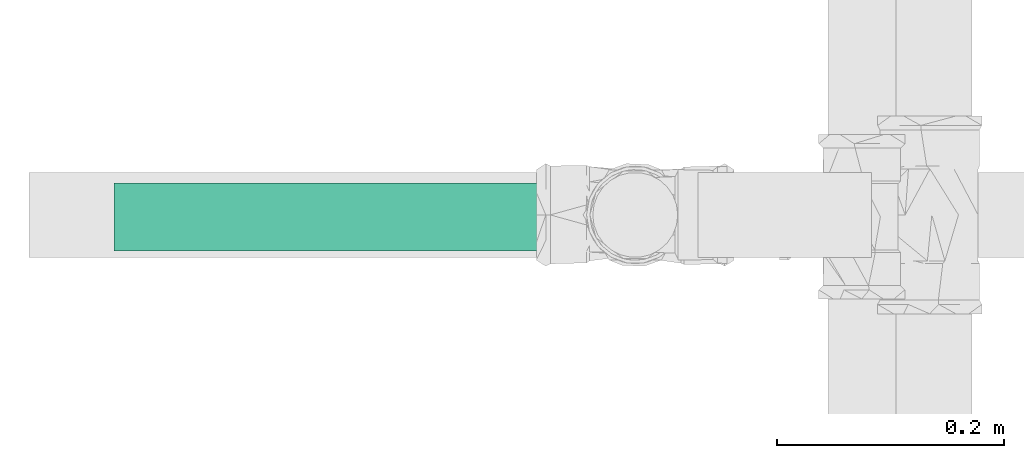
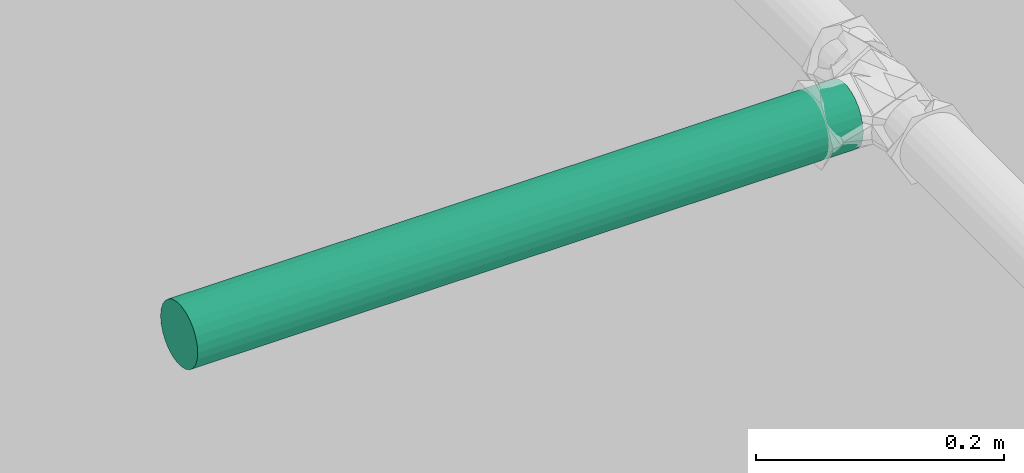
# One storey, part 56 of 166: 1 flow segment.
"""IFC2X3 building model written with IfcOpenShell, lengths in metres."""

from ifc_helpers import new_model, entity, si_unit, converted_unit, direction, frame, frame_2d, origin, place, context, subcontext, project, spatial, circle, extrude, type_object, element, save


model = new_model("IFC2X3")

# Units and contexts
model_context = context("Model", 3, precision=1e-05, world=origin(), true_north=direction((6.123233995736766e-17, 1.0)))
body_context = subcontext(model_context, "Body", "Model", "MODEL_VIEW")
ifc_project = project(units=[si_unit("LENGTHUNIT", "METRE"), converted_unit("PLANEANGLEUNIT", "DEGREE", entity("IfcPlaneAngleMeasure", 0.017453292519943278), si_unit("PLANEANGLEUNIT", "RADIAN"), dimensions=[0, 0, 0, 0, 0, 0, 0]), si_unit("AREAUNIT", "SQUARE_METRE")], contexts=[model_context])

# Site, building, storey
site_placement = place(None, origin())
site = spatial("IfcSite", under=ifc_project, at=site_placement, Name="Default", CompositionType="ELEMENT")
building_placement = place(site_placement, origin())
building = spatial("IfcBuilding", under=site, at=building_placement, Name="CASA DE ACOLHIDA PARA IDOSOS", CompositionType="ELEMENT")
storey_placement = place(building_placement, frame((0.0, 0.0, -1.7499999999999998)))
storey = spatial("IfcBuildingStorey", under=building, at=storey_placement, Name="IMPLANTAÇÃO DRENAGEM", CompositionType="ELEMENT", Elevation=-1.7499999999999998)

# Flow segment
pipe_segment_type = type_object("IfcPipeSegmentType", Name="Tipos de tubos:AF_Tubo Branco Roscável", PredefinedType="NOTDEFINED")
flow_segment_placement = place(storey_placement, origin())
element("IfcFlowSegment", 1, at=flow_segment_placement, inside=storey, type_object=pipe_segment_type, Name="Tipos de tubos:AF_Tubo Branco Roscável", ObjectType="Tipos de tubos:AF_Tubo Branco Roscável", context=body_context, shape_type="SweptSolid", body=[
    extrude(circle(Radius=0.03, at=frame_2d((-1.0151879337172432e-15, 0.0), x_axis=(1.0, 0.0))), frame((-65.3672805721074, -0.2530381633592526, 2.615000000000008), z_axis=(1.0, 0.0, 0.0), x_axis=(0.0, 1.0, 0.0)), (0.0, 0.0, 1.0), 0.6204999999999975),
])

save(model, "model.ifc")
